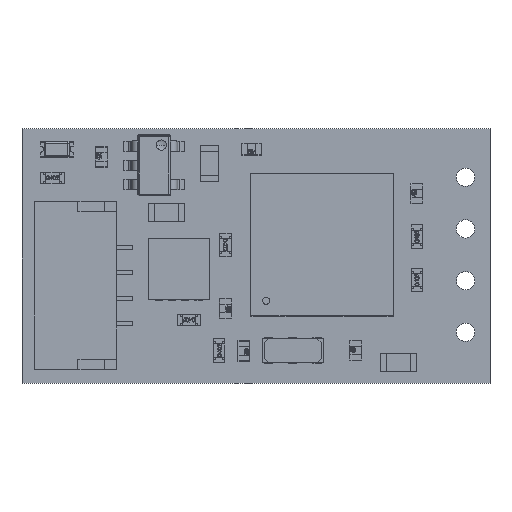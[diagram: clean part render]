
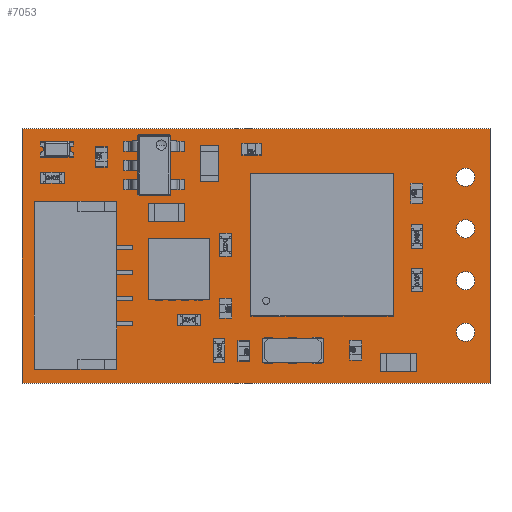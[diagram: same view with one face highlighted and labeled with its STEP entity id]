
A CAD part, top view. The second image highlights one B-rep face of the part: STEP entity #7053.
In plain terms, the highlighted planar face has unit normal (0, 0, 1).
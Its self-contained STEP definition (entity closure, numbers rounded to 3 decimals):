
#6780 = VERTEX_POINT('',#6781);
#6781 = CARTESIAN_POINT('',(0.,0.,0.));
#6787 = EDGE_CURVE('',#6780,#6788,#6790,.T.);
#6788 = VERTEX_POINT('',#6789);
#6789 = CARTESIAN_POINT('',(23.,0.,0.));
#6790 = LINE('',#6791,#6792);
#6791 = CARTESIAN_POINT('',(0.,0.,0.));
#6792 = VECTOR('',#6793,1.);
#6793 = DIRECTION('',(1.,0.,0.));
#6818 = EDGE_CURVE('',#6788,#6819,#6821,.T.);
#6819 = VERTEX_POINT('',#6820);
#6820 = CARTESIAN_POINT('',(23.,12.5,0.));
#6821 = LINE('',#6822,#6823);
#6822 = CARTESIAN_POINT('',(23.,0.,0.));
#6823 = VECTOR('',#6824,1.);
#6824 = DIRECTION('',(0.,1.,0.));
#6849 = EDGE_CURVE('',#6819,#6850,#6852,.T.);
#6850 = VERTEX_POINT('',#6851);
#6851 = CARTESIAN_POINT('',(0.,12.5,0.));
#6852 = LINE('',#6853,#6854);
#6853 = CARTESIAN_POINT('',(23.,12.5,0.));
#6854 = VECTOR('',#6855,1.);
#6855 = DIRECTION('',(-1.,0.,0.));
#6880 = EDGE_CURVE('',#6850,#6780,#6881,.T.);
#6881 = LINE('',#6882,#6883);
#6882 = CARTESIAN_POINT('',(0.,12.5,0.));
#6883 = VECTOR('',#6884,1.);
#6884 = DIRECTION('',(0.,-1.,0.));
#6904 = VERTEX_POINT('',#6905);
#6905 = CARTESIAN_POINT('',(22.25,2.5,0.));
#6911 = EDGE_CURVE('',#6904,#6904,#6912,.T.);
#6912 = CIRCLE('',#6913,0.45);
#6913 = AXIS2_PLACEMENT_3D('',#6914,#6915,#6916);
#6914 = CARTESIAN_POINT('',(21.8,2.5,0.));
#6915 = DIRECTION('',(0.,0.,1.));
#6916 = DIRECTION('',(1.,0.,0.));
#6937 = VERTEX_POINT('',#6938);
#6938 = CARTESIAN_POINT('',(22.25,5.04,0.));
#6944 = EDGE_CURVE('',#6937,#6937,#6945,.T.);
#6945 = CIRCLE('',#6946,0.45);
#6946 = AXIS2_PLACEMENT_3D('',#6947,#6948,#6949);
#6947 = CARTESIAN_POINT('',(21.8,5.04,0.));
#6948 = DIRECTION('',(0.,0.,1.));
#6949 = DIRECTION('',(1.,0.,0.));
#6970 = VERTEX_POINT('',#6971);
#6971 = CARTESIAN_POINT('',(22.25,7.58,0.));
#6977 = EDGE_CURVE('',#6970,#6970,#6978,.T.);
#6978 = CIRCLE('',#6979,0.45);
#6979 = AXIS2_PLACEMENT_3D('',#6980,#6981,#6982);
#6980 = CARTESIAN_POINT('',(21.8,7.58,0.));
#6981 = DIRECTION('',(0.,0.,1.));
#6982 = DIRECTION('',(1.,0.,0.));
#7003 = VERTEX_POINT('',#7004);
#7004 = CARTESIAN_POINT('',(22.25,10.12,0.));
#7010 = EDGE_CURVE('',#7003,#7003,#7011,.T.);
#7011 = CIRCLE('',#7012,0.45);
#7012 = AXIS2_PLACEMENT_3D('',#7013,#7014,#7015);
#7013 = CARTESIAN_POINT('',(21.8,10.12,0.));
#7014 = DIRECTION('',(0.,0.,1.));
#7015 = DIRECTION('',(1.,0.,0.));
#7053 = ADVANCED_FACE('',(#7054,#7060,#7063,#7066,#7069),#7072,.F.);
#7054 = FACE_BOUND('',#7055,.T.);
#7055 = EDGE_LOOP('',(#7056,#7057,#7058,#7059));
#7056 = ORIENTED_EDGE('',*,*,#6787,.T.);
#7057 = ORIENTED_EDGE('',*,*,#6818,.T.);
#7058 = ORIENTED_EDGE('',*,*,#6849,.T.);
#7059 = ORIENTED_EDGE('',*,*,#6880,.T.);
#7060 = FACE_BOUND('',#7061,.F.);
#7061 = EDGE_LOOP('',(#7062));
#7062 = ORIENTED_EDGE('',*,*,#6911,.T.);
#7063 = FACE_BOUND('',#7064,.F.);
#7064 = EDGE_LOOP('',(#7065));
#7065 = ORIENTED_EDGE('',*,*,#6944,.T.);
#7066 = FACE_BOUND('',#7067,.F.);
#7067 = EDGE_LOOP('',(#7068));
#7068 = ORIENTED_EDGE('',*,*,#6977,.T.);
#7069 = FACE_BOUND('',#7070,.F.);
#7070 = EDGE_LOOP('',(#7071));
#7071 = ORIENTED_EDGE('',*,*,#7010,.T.);
#7072 = PLANE('',#7073);
#7073 = AXIS2_PLACEMENT_3D('',#7074,#7075,#7076);
#7074 = CARTESIAN_POINT('',(0.,0.,0.));
#7075 = DIRECTION('',(0.,0.,-1.));
#7076 = DIRECTION('',(-1.,0.,0.));
